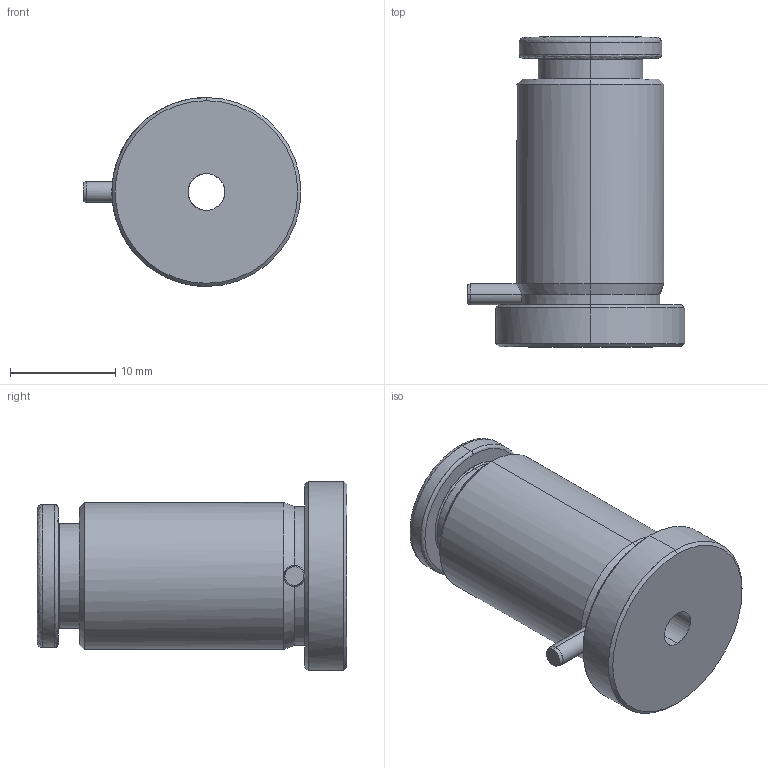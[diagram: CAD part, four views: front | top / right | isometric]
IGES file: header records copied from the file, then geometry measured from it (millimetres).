
Start section: START RECORD GO HERE.
Global section: file name: ba061418.igs; native system: DASSAULT SYSTEMES CATIA V5 R20 - www.3ds.com; preprocessor: CATIA Version 5 Release 20 ; author: Utente; organization: NB04-ASUS; date: 20201103.203731; units: millimetre
Bounding box: 20.75 x 29.5 x 18 mm (x, y, z)
Surface area: 4296.6 mm2 (no closed solid volume)
Topology: 0 solids, 0 shells, 267 faces, 1245 edges, 1195 vertices
Faces by surface type: revolution 185, bspline 66, plane 16
